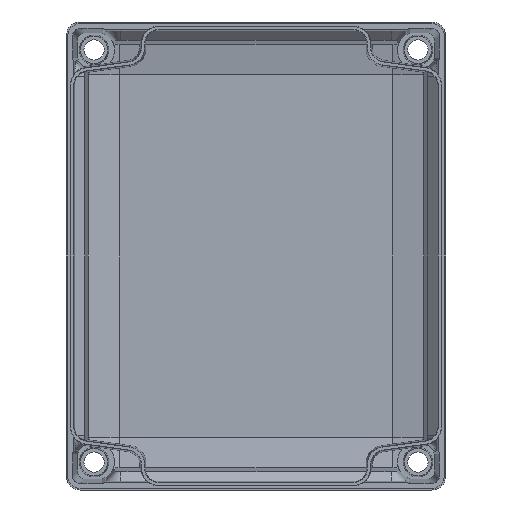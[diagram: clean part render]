
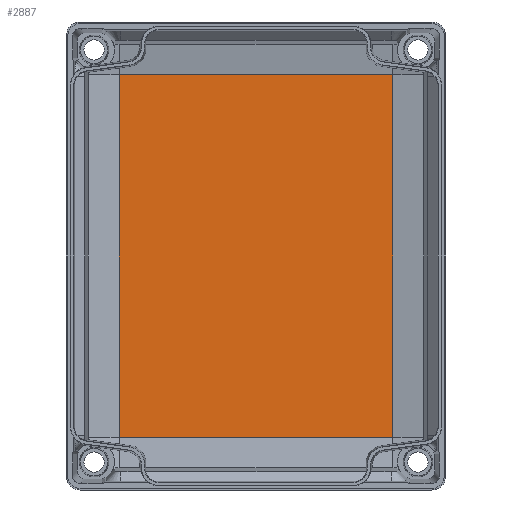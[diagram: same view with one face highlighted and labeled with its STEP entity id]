
A CAD part, front view. The second image highlights one B-rep face of the part: STEP entity #2887.
In plain terms, the highlighted planar face has unit normal (0, -1, 0).
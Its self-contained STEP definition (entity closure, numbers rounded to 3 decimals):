
#418 = CARTESIAN_POINT ( 'NONE',  ( 58.714, 66.7, 77.714 ) ) ;
#1229 = AXIS2_PLACEMENT_3D ( 'NONE', #6473, #4104, #5655 ) ;
#1243 = DIRECTION ( 'NONE',  ( 0., 0., -1. ) ) ;
#1419 = LINE ( 'NONE', #5024, #4932 ) ;
#1774 = ORIENTED_EDGE ( 'NONE', *, *, #2723, .F. ) ;
#1892 = VERTEX_POINT ( 'NONE', #6551 ) ;
#2075 = VECTOR ( 'NONE', #4538, 1000. ) ;
#2342 = LINE ( 'NONE', #7428, #3943 ) ;
#2507 = VECTOR ( 'NONE', #2731, 1000. ) ;
#2723 = EDGE_CURVE ( 'NONE', #9206, #1892, #8471, .T. ) ;
#2731 = DIRECTION ( 'NONE',  ( 0., 0., -1. ) ) ;
#2887 = ADVANCED_FACE ( 'NONE', ( #4615 ), #9493, .F. ) ;
#3943 = VECTOR ( 'NONE', #9749, 1000. ) ;
#3988 = LINE ( 'NONE', #4995, #2507 ) ;
#4104 = DIRECTION ( 'NONE',  ( 0., 1., 0. ) ) ;
#4538 = DIRECTION ( 'NONE',  ( -1., 0., 0. ) ) ;
#4615 = FACE_OUTER_BOUND ( 'NONE', #7898, .T. ) ;
#4632 = CARTESIAN_POINT ( 'NONE',  ( 58.714, 66.7, -77.714 ) ) ;
#4932 = VECTOR ( 'NONE', #1243, 1000. ) ;
#4995 = CARTESIAN_POINT ( 'NONE',  ( -58.711, 66.7, 0. ) ) ;
#5024 = CARTESIAN_POINT ( 'NONE',  ( 58.711, 66.7, 0. ) ) ;
#5135 = ORIENTED_EDGE ( 'NONE', *, *, #8229, .T. ) ;
#5268 = VERTEX_POINT ( 'NONE', #418 ) ;
#5340 = ORIENTED_EDGE ( 'NONE', *, *, #5800, .T. ) ;
#5655 = DIRECTION ( 'NONE',  ( 0., 0., 1. ) ) ;
#5800 = EDGE_CURVE ( 'NONE', #9713, #1892, #3988, .T. ) ;
#6087 = EDGE_CURVE ( 'NONE', #5268, #9206, #1419, .T. ) ;
#6473 = CARTESIAN_POINT ( 'NONE',  ( 0., 66.7, 0. ) ) ;
#6551 = CARTESIAN_POINT ( 'NONE',  ( -58.714, 66.7, -77.714 ) ) ;
#6841 = CARTESIAN_POINT ( 'NONE',  ( 0., 66.7, -77.711 ) ) ;
#7428 = CARTESIAN_POINT ( 'NONE',  ( 0., 66.7, 77.711 ) ) ;
#7683 = ORIENTED_EDGE ( 'NONE', *, *, #6087, .F. ) ;
#7898 = EDGE_LOOP ( 'NONE', ( #5135, #5340, #1774, #7683 ) ) ;
#8229 = EDGE_CURVE ( 'NONE', #5268, #9713, #2342, .T. ) ;
#8471 = LINE ( 'NONE', #6841, #2075 ) ;
#9206 = VERTEX_POINT ( 'NONE', #4632 ) ;
#9313 = CARTESIAN_POINT ( 'NONE',  ( -58.714, 66.7, 77.714 ) ) ;
#9493 = PLANE ( 'NONE',  #1229 ) ;
#9713 = VERTEX_POINT ( 'NONE', #9313 ) ;
#9749 = DIRECTION ( 'NONE',  ( -1., 0., 0. ) ) ;
